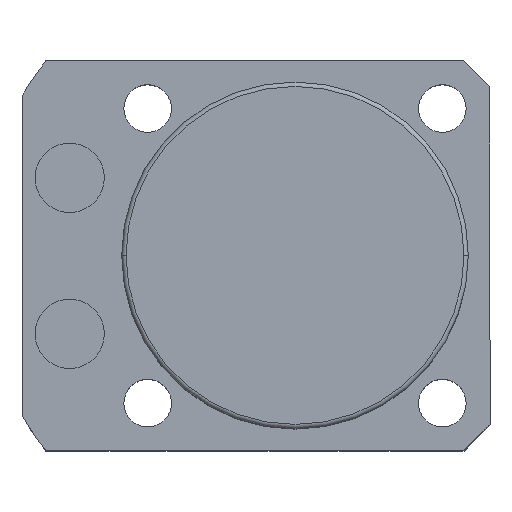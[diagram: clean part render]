
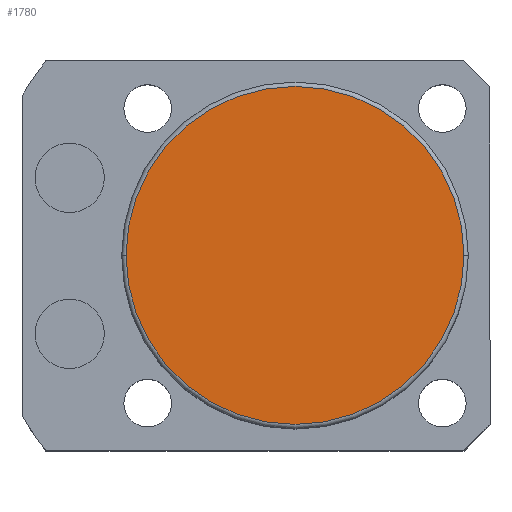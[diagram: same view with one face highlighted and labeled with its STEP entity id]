
A CAD part, top view. The second image highlights one B-rep face of the part: STEP entity #1780.
In plain terms, the highlighted planar face has unit normal (0, 0, 1).
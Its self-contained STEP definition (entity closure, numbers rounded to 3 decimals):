
#535 = ORIENTED_EDGE ( 'NONE', *, *, #2645, .T. ) ;
#728 = DIRECTION ( 'NONE',  ( 1., 0., 0. ) ) ;
#845 = CARTESIAN_POINT ( 'NONE',  ( 0., 0., 38.5 ) ) ;
#1195 = VERTEX_POINT ( 'NONE', #4278 ) ;
#1328 = CARTESIAN_POINT ( 'NONE',  ( 19.5, 0., 38.5 ) ) ;
#1373 = FACE_OUTER_BOUND ( 'NONE', #1392, .T. ) ;
#1392 = EDGE_LOOP ( 'NONE', ( #4500, #535 ) ) ;
#1657 = DIRECTION ( 'NONE',  ( 1., 0., 0. ) ) ;
#1780 = ADVANCED_FACE ( 'NONE', ( #1373 ), #4435, .T. ) ;
#1877 = VERTEX_POINT ( 'NONE', #1328 ) ;
#1982 = DIRECTION ( 'NONE',  ( 0., 0., 1. ) ) ;
#2432 = DIRECTION ( 'NONE',  ( 0., 0., 1. ) ) ;
#2645 = EDGE_CURVE ( 'NONE', #1195, #1877, #3373, .T. ) ;
#2793 = AXIS2_PLACEMENT_3D ( 'NONE', #3601, #1982, #728 ) ;
#3221 = CARTESIAN_POINT ( 'NONE',  ( 0., 0., 38.5 ) ) ;
#3313 = EDGE_CURVE ( 'NONE', #1877, #1195, #4903, .T. ) ;
#3373 = CIRCLE ( 'NONE', #2793, 19.5 ) ;
#3601 = CARTESIAN_POINT ( 'NONE',  ( 0., 0., 38.5 ) ) ;
#4115 = DIRECTION ( 'NONE',  ( 1., 0., 0. ) ) ;
#4278 = CARTESIAN_POINT ( 'NONE',  ( -19.5, 0., 38.5 ) ) ;
#4435 = PLANE ( 'NONE',  #5081 ) ;
#4500 = ORIENTED_EDGE ( 'NONE', *, *, #3313, .T. ) ;
#4546 = AXIS2_PLACEMENT_3D ( 'NONE', #845, #4949, #1657 ) ;
#4903 = CIRCLE ( 'NONE', #4546, 19.5 ) ;
#4949 = DIRECTION ( 'NONE',  ( 0., 0., 1. ) ) ;
#5081 = AXIS2_PLACEMENT_3D ( 'NONE', #3221, #2432, #4115 ) ;
